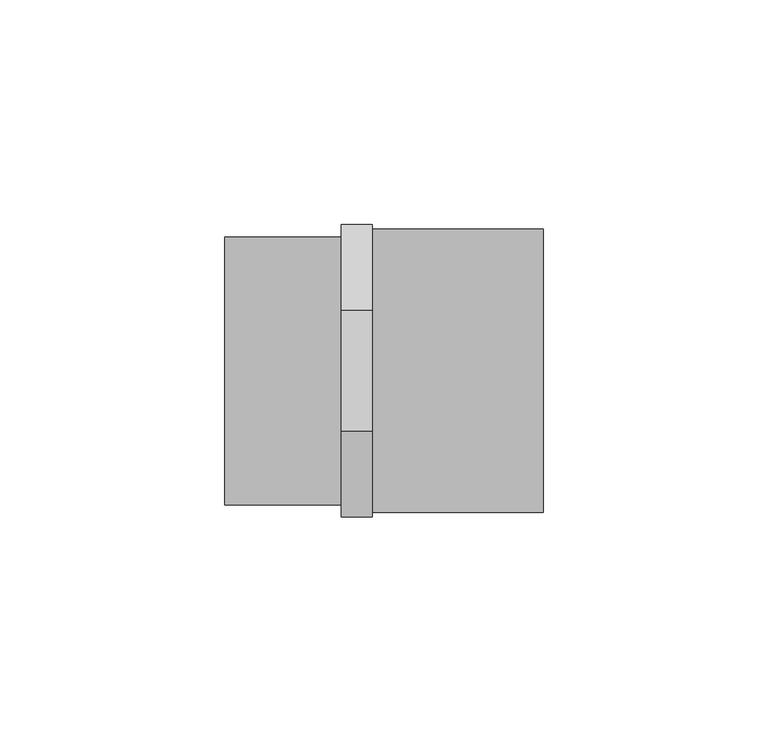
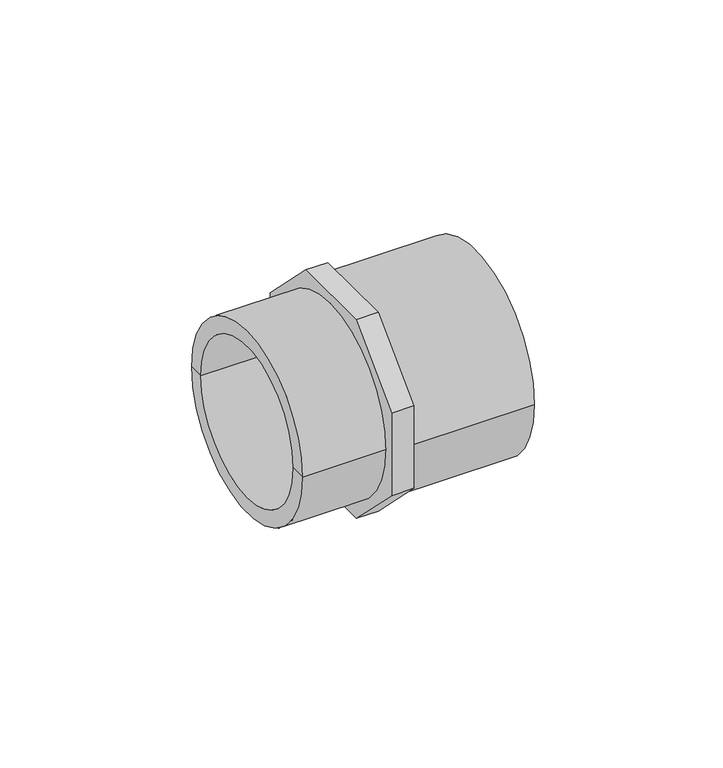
"""IFC4 building model written with IfcOpenShell, lengths in millimetres: pipe fitting geometry, Durapipe_PipeFitting_PVC_MaleThreadedAdaptors : 63 x 50 x G2."""

from ifc_helpers import new_model, si_unit, point, frame, origin, origin_2d, place, context, project, spatial, polyline, circle_curve, trimmed, segment, composite_curve, outline, extrude, source, transform, mapped, element, save
from ifc_brep_helpers import plane_surface, cylinder_surface, revolved_surface, advanced_brep


def pipe_fitting_0a72955d(model_context):
    return source(origin(), model_context, "Body", "SolidModel", [
        extrude(outline(polyline([(32.5, 13.4619408), (32.5, -13.4619408), (13.4619408, -32.5), (-13.4619408, -32.5), (-32.5, -13.4619408), (-32.5, 13.4619408), (-13.4619408, 32.5), (13.4619408, 32.5), (32.5, 13.4619408)]), holes=[composite_curve([segment(trimmed(circle_curve(origin_2d(), 24.8), [point((24.8, 0.0))], [point((-24.8, 0.0))], True, "CARTESIAN"), True, "CONTINUOUS"), segment(trimmed(circle_curve(origin_2d(), 24.8), [point((-24.8, 0.0))], [point((24.8, 0.0))], True, "CARTESIAN"), True, "CONTINUOUS")], self_intersect=False)]), frame((-6.8, 0.0, 0.0), z_axis=(1.0, 0.0, 0.0), x_axis=(0.0, 1.0, 0.0)), (0.0, 0.0, 1.0), 6.8),
        advanced_brep(
        [(0.0, -31.5, 0.0), (0.0, 31.5, 0.0), (38.0, 31.5, 0.0), (38.0, -31.5, 0.0), (38.0, 25.0, 0.0), (38.0, -25.0, 0.0), (0.0, 0.0, 0.0), (7.0, 25.0, 0.0), (7.0, -25.0, 0.0), (7.0, 0.0, 0.0)],
        [
            (0, 1, circle_curve(frame((0.0, 0.0, 0.0), z_axis=(1.0, 0.0, 0.0), x_axis=(0.0, 1.0, 0.0)), 31.5)),
            (1, 2),
            (2, 3, circle_curve(frame((38.0, 0.0, 0.0), z_axis=(-1.0, 0.0, 0.0), x_axis=(0.0, 1.0, 0.0)), 31.5)),
            (3, 0),
            (1, 0, circle_curve(frame((0.0, 0.0, 0.0), z_axis=(1.0, 0.0, 0.0), x_axis=(0.0, 1.0, 0.0)), 31.5)),
            (3, 2, circle_curve(frame((38.0, 0.0, 0.0), z_axis=(-1.0, 0.0, 0.0), x_axis=(0.0, 1.0, 0.0)), 31.5)),
            (2, 4),
            (4, 5, circle_curve(frame((38.0, 0.0, 0.0), z_axis=(-1.0, 0.0, 0.0), x_axis=(0.0, 1.0, 0.0)), 25.0)),
            (5, 3),
            (5, 4, circle_curve(frame((38.0, 0.0, 0.0), z_axis=(-1.0, 0.0, 0.0), x_axis=(0.0, 1.0, 0.0)), 25.0)),
            (0, 6),
            (6, 1),
            (7, 8, circle_curve(frame((7.0, 0.0, 0.0), z_axis=(-1.0, 0.0, 0.0), x_axis=(0.0, 1.0, 0.0)), 25.0)),
            (8, 5),
            (4, 7),
            (8, 7, circle_curve(frame((7.0, 0.0, 0.0), z_axis=(-1.0, 0.0, 0.0), x_axis=(0.0, 1.0, 0.0)), 25.0)),
            (7, 9),
            (9, 8),
        ],
        [
            cylinder_surface(frame((439.4572068, 0.0, 0.0), z_axis=(-1.0, 0.0, 0.0), x_axis=(0.0, 1.0, 0.0)), 31.5),
            plane_surface(frame((38.0, 0.0, 0.0), z_axis=(1.0, 0.0, 0.0), x_axis=(0.0, 1.0, 0.0))),
            plane_surface(frame((0.0, 0.0, 0.0), z_axis=(-1.0, 0.0, 0.0), x_axis=(0.0, 1.0, 0.0))),
            revolved_surface(polyline([(7.0, 25.0, 0.0), (38.0, 25.0, 0.0)]), (51.5575137, 0.0, 0.0), (-1.0, 0.0, 0.0)),
            plane_surface(frame((7.0, 0.0, 0.0), z_axis=(1.0, 0.0, 0.0), x_axis=(0.0, 1.0, 0.0))),
        ],
        [
            (0, [[1, 2, 3, 4]]),
            (0, [[-2, 5, -4, 6]]),
            (1, [[-3, 7, 8, 9]]),
            (1, [[-6, -9, 10, -7]]),
            (2, [[-1, 11, 12]]),
            (2, [[-5, -12, -11]]),
            (3, [[13, 14, -8, 15]]),
            (3, [[16, -15, -10, -14]]),
            (4, [[-13, 17, 18]]),
            (4, [[-16, -18, -17]]),
        ],
    ),
        advanced_brep(
        [(-6.8, -24.8, 0.0), (-6.8, 24.8, 0.0), (-32.7, 24.8, 0.0), (-32.7, -24.8, 0.0), (-6.8, -29.8, 0.0), (-6.8, 29.8, 0.0), (-32.7, -29.8, 0.0), (-32.7, 29.8, 0.0)],
        [
            (0, 1, circle_curve(frame((-6.8, 0.0, 0.0), z_axis=(1.0, 0.0, 0.0), x_axis=(0.0, 1.0, 0.0)), 24.8)),
            (1, 2),
            (2, 3, circle_curve(frame((-32.7, 0.0, 0.0), z_axis=(-1.0, 0.0, 0.0), x_axis=(0.0, 1.0, 0.0)), 24.8)),
            (3, 0),
            (1, 0, circle_curve(frame((-6.8, 0.0, 0.0), z_axis=(1.0, 0.0, 0.0), x_axis=(0.0, 1.0, 0.0)), 24.8)),
            (3, 2, circle_curve(frame((-32.7, 0.0, 0.0), z_axis=(-1.0, 0.0, 0.0), x_axis=(0.0, 1.0, 0.0)), 24.8)),
            (4, 5, circle_curve(frame((-6.8, 0.0, 0.0), z_axis=(1.0, 0.0, 0.0), x_axis=(0.0, 1.0, 0.0)), 29.8)),
            (5, 1),
            (0, 4),
            (5, 4, circle_curve(frame((-6.8, 0.0, 0.0), z_axis=(1.0, 0.0, 0.0), x_axis=(0.0, 1.0, 0.0)), 29.8)),
            (6, 7, circle_curve(frame((-32.7, 0.0, 0.0), z_axis=(1.0, 0.0, 0.0), x_axis=(0.0, 1.0, 0.0)), 29.8)),
            (7, 5),
            (4, 6),
            (7, 6, circle_curve(frame((-32.7, 0.0, 0.0), z_axis=(1.0, 0.0, 0.0), x_axis=(0.0, 1.0, 0.0)), 29.8)),
            (2, 7),
            (6, 3),
        ],
        [
            revolved_surface(polyline([(-32.7, 24.8, 0.0), (-6.799999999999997, 24.8, 0.0)]), (-47.7, 0.0, 0.0), (-1.0, 0.0, 0.0)),
            plane_surface(frame((-6.8, 0.0, 0.0), z_axis=(1.0, 0.0, 0.0), x_axis=(0.0, 1.0, 0.0))),
            cylinder_surface(frame((-47.7, 0.0, 0.0), z_axis=(-1.0, 0.0, 0.0), x_axis=(0.0, 1.0, 0.0)), 29.8),
            plane_surface(frame((-32.7, 0.0, 0.0), z_axis=(-1.0, 0.0, 0.0), x_axis=(0.0, 1.0, 0.0))),
        ],
        [
            (0, [[1, 2, 3, 4]]),
            (0, [[5, -4, 6, -2]]),
            (1, [[7, 8, -1, 9]]),
            (1, [[10, -9, -5, -8]]),
            (2, [[11, 12, -7, 13]]),
            (2, [[14, -13, -10, -12]]),
            (3, [[-3, 15, -11, 16]]),
            (3, [[-6, -16, -14, -15]]),
        ],
    ),
    ])


if __name__ == "__main__":
    model = new_model("IFC4")
    model_context = context("Model", 3, world=origin())
    ifc_project = project(units=[si_unit("LENGTHUNIT", "METRE", prefix="MILLI")], contexts=[model_context])
    site = spatial("IfcSite", under=ifc_project)
    building = spatial("IfcBuilding", under=site)
    placement = place(None, origin())
    pipe_fitting_shape = pipe_fitting_0a72955d(model_context)
    element("IfcPipeFitting", 1, ObjectType="Durapipe_PipeFitting_PVC_MaleThreadedAdaptors : 63 x 50 x G2", at=placement, inside=building, context=model_context, shape_type="MappedRepresentation", body=[
        mapped(pipe_fitting_shape, transform((0.0, 0.0, 0.0), x_axis=(1.0, 0.0, 0.0), y_axis=(0.0, 1.0, 0.0), z_axis=(0.0, 0.0, 1.0))),
    ])
    save(model, "model.ifc")
